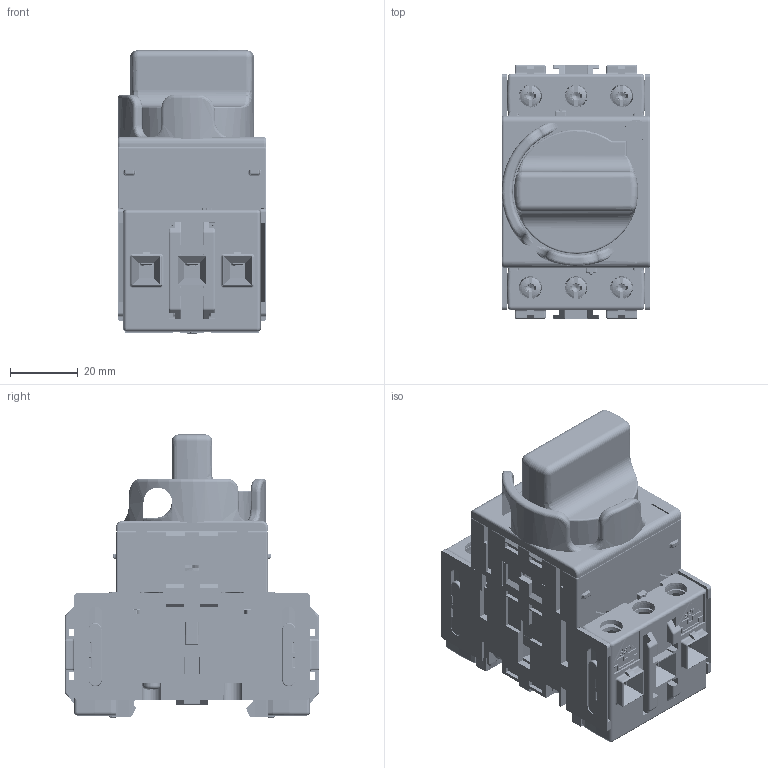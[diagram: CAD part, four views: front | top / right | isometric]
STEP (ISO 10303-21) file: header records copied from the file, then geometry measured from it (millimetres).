
FILE_DESCRIPTION(('CATIA V5 STEP Exchange','CAx-IF Rec.Pracs.--- Model Styling and Organization---1.2---2011-12-15'),'2;1');
FILE_NAME('\\appfrlgs154.eu.dir.grpleg.com\it_referentiel\transcad\sortie\fabien.fantini@legrand.fr\396\002221950.stp','2016-11-29T08:30:57+00:00',('none'),('none'),'CATIA Version 5-6 Release 2014 SP4','CATIA V5 STEP AP214','none');
FILE_SCHEMA(('AUTOMOTIVE_DESIGN { 1 0 10303 214 1 1 1 1 }'));
Products named in the file (23): 002221950; S01730301; S01730160; S01730110; S01730090; S01730321; S01730311; S01730360; S01730140; S01730100; S01730260; S01730080; S01730070; S06005350; S01730330; S01730350; S01730440essai; S01730130L1; S01752800L1; S91962040; S01735050; S01735000; S91863220
Assembly tree (59 placements, depth 3):
  002221950
    S01730301
    S01730160  x6
      S01730110
      S01730090
    S01730321
    S01730311
    S01730360
    S01730140  x3
      S01730100
      S01730090
    S01730260  x2
    S01730080  x6
    S01730070  x12
    S06005350  x2
    S01730330  x2
    S01730350  x4
    S01730440essai
    S01730130L1  x3
    S01752800L1  x4
    S91962040  x2
    S01735050
    S01735000
    S91863220
Bounding box: 44 x 75.15 x 83.76 mm (x, y, z)
Volume: 95500.2 mm3; surface area: 115074.6 mm2
Topology: 78 solids, 78 shells, 7459 faces, 19987 edges, 12482 vertices
Faces by surface type: plane 3954, cylinder 2016, torus 520, bspline 348, cone 307, sphere 298, extrusion 16
Entity records: 147563 total; most frequent: CARTESIAN_POINT 41772, ORIENTED_EDGE 23694, DIRECTION 16557, EDGE_CURVE 11847, VERTEX_POINT 7487, VECTOR 7486, LINE 7478, AXIS2_PLACEMENT_3D 6075
